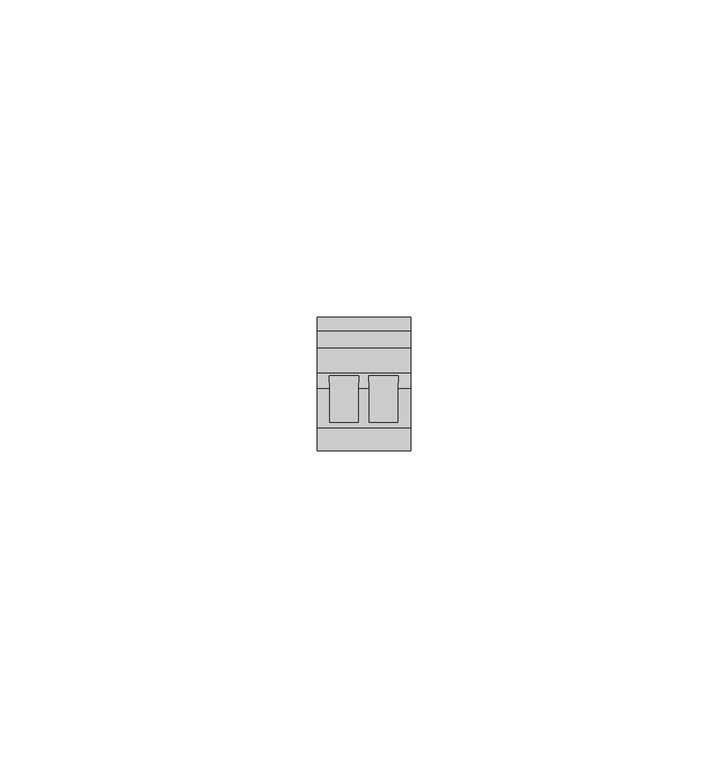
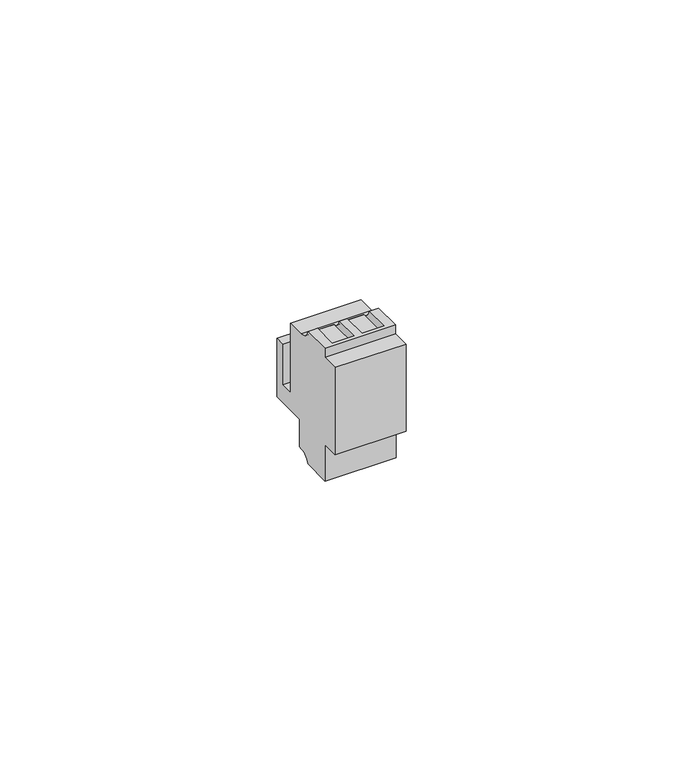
"""IFC4 building model written with IfcOpenShell, lengths in millimetres: electric appliance geometry, Data_Device-Network-Leviton-QuickPort-LC_Adapter : QuickPort, LC Shuttered Adapter - Green."""

from ifc_helpers import new_model, si_unit, frame, origin, place, context, project, spatial, polyline, circle_curve, outline, extrude, source, transform, mapped, element, save
from ifc_brep_helpers import plane_surface, revolved_surface, advanced_brep


def electric_appliance_7dd04773(model_context):
    return source(origin(), model_context, "Body", "SolidModel", [
        extrude(outline(polyline([(-28.4742003, 1.7803394), (-28.4742003, 9.1884779), (-23.8259996, 9.1884779), (-23.8259996, 1.7803394), (-28.4742003, 1.7803394)])), frame((0.0, 0.0, -0.762), z_axis=(0.0, 0.0, 1.0), x_axis=(1.0, 0.0, 0.0)), (0.0, 0.0, 1.0), 0.9134807),
        extrude(outline(polyline([(-17.5759997, 1.7803394), (-22.2242004, 1.7803394), (-22.2242004, 9.1884779), (-17.5759997, 9.1884779), (-17.5759997, 1.7803394)])), frame((0.0, 0.0, -0.762), z_axis=(0.0, 0.0, 1.0), x_axis=(1.0, 0.0, 0.0)), (0.0, 0.0, 1.0), 0.9134807),
        advanced_brep(
        [(-15.6591, 0.9630668, -19.0731444), (-15.6591, 0.9630668, -27.06), (-15.6591, 7.2670047, -27.06), (-15.6591, 9.4478073, -25.15), (-15.6591, 10.3183578, -25.15), (-15.6591, 10.3183578, -19.0731444), (-15.6591, 18.4531286, -19.0731444), (-15.6591, 18.4531286, -6.2289856), (-15.6591, 16.3498226, -6.2289856), (-15.6591, 16.3498226, -15.1890017), (-15.6591, 13.5187825, -15.1890017), (-15.6591, 13.5187825, 0.1514807), (-15.6591, 9.6964779, 0.1514807), (-15.6591, 7.1619817, 2.15), (-15.6591, 1.057779, 2.15), (-15.6591, 1.057779, 0.1514807), (-15.6591, -2.6102175, 0.1514807), (-15.6591, -2.6102175, -19.0731444), (-30.3911, 0.9630668, -19.0731444), (-30.3911, -2.6102175, -19.0731444), (-30.3911, -2.6102175, 0.1514807), (-30.3911, 1.057779, 0.1514807), (-30.3911, 1.057779, 2.15), (-30.3911, 7.1619817, 2.15), (-30.3911, 9.6964779, 0.1514807), (-30.3911, 13.5187825, 0.1514807), (-30.3911, 13.5187825, -15.1890017), (-30.3911, 16.3498226, -15.1890017), (-30.3911, 16.3498226, -6.2289856), (-30.3911, 18.4531286, -6.2289856), (-30.3911, 18.4531286, -19.0731444), (-30.3911, 10.3183578, -19.0731444), (-30.3911, 10.3183578, -25.15), (-30.3911, 9.4478073, -25.15), (-30.3911, 7.2670047, -27.06), (-30.3911, 0.9630668, -27.06), (-17.5759997, 7.1619817, 2.15), (-17.5759997, 1.7803394, 2.15), (-22.2242004, 1.7803394, 2.15), (-22.2242004, 7.1619817, 2.15), (-23.8259996, 7.1619817, 2.15), (-23.8259996, 1.7803394, 2.15), (-28.4742003, 1.7803394, 2.15), (-28.4742003, 7.1619817, 2.15), (-28.4742003, 9.1884779, 0.2014664), (-23.8259996, 9.1884779, 0.2014664), (-22.2242004, 9.1884779, 0.2014664), (-17.5759997, 9.1884779, 0.2014664), (-23.8259996, 1.7803394, -0.762), (-23.8259996, 9.1884779, -0.762), (-28.4742003, 9.1884779, -0.762), (-28.4742003, 1.7803394, -0.762), (-17.5759997, 1.7803394, -0.762), (-17.5759997, 9.1884779, -0.762), (-22.2242004, 9.1884779, -0.762), (-22.2242004, 1.7803394, -0.762)],
        [
            (0, 1),
            (1, 2),
            (2, 3, circle_curve(frame((-15.6591, 9.4478073, -27.35), z_axis=(-1.0, 0.0, 0.0), x_axis=(0.0, 1.0, 0.0)), 2.2)),
            (3, 4),
            (4, 5),
            (5, 6),
            (6, 7),
            (7, 8),
            (8, 9),
            (9, 10),
            (10, 11),
            (11, 12),
            (12, 13, circle_curve(frame((-15.6591, 9.6964779, 2.7578478), z_axis=(-1.0, 0.0, 0.0), x_axis=(0.0, 1.0, 0.0)), 2.6063671)),
            (13, 14),
            (14, 15),
            (15, 16),
            (16, 17),
            (17, 0),
            (18, 19),
            (19, 20),
            (20, 21),
            (21, 22),
            (22, 23),
            (23, 24, circle_curve(frame((-30.3911, 9.6964779, 2.7578478), z_axis=(1.0, 0.0, 0.0), x_axis=(0.0, 1.0, 0.0)), 2.6063671)),
            (24, 25),
            (25, 26),
            (26, 27),
            (27, 28),
            (28, 29),
            (29, 30),
            (30, 31),
            (31, 32),
            (32, 33),
            (33, 34, circle_curve(frame((-30.3911, 9.4478073, -27.35), z_axis=(1.0, 0.0, 0.0), x_axis=(0.0, 1.0, 0.0)), 2.2)),
            (34, 35),
            (35, 18),
            (10, 26),
            (25, 11),
            (24, 12),
            (13, 36),
            (36, 37),
            (37, 38),
            (38, 39),
            (39, 40),
            (40, 41),
            (41, 42),
            (42, 43),
            (43, 23),
            (22, 14),
            (21, 15),
            (20, 16),
            (19, 17),
            (18, 0),
            (6, 30),
            (29, 7),
            (28, 8),
            (27, 9),
            (35, 1),
            (34, 2),
            (4, 32),
            (31, 5),
            (33, 3),
            (43, 44, circle_curve(frame((-28.4742003, 9.6964779, 2.7578478), z_axis=(1.0, 0.0, 0.0), x_axis=(0.0, 1.0, 0.0)), 2.6063671)),
            (44, 45),
            (45, 40, circle_curve(frame((-23.8259996, 9.6964779, 2.7578478), z_axis=(-1.0, 0.0, 0.0), x_axis=(0.0, 1.0, 0.0)), 2.6063671)),
            (39, 46, circle_curve(frame((-22.2242004, 9.6964779, 2.7578478), z_axis=(1.0, 0.0, 0.0), x_axis=(0.0, 1.0, 0.0)), 2.6063671)),
            (46, 47),
            (47, 36, circle_curve(frame((-17.5759997, 9.6964779, 2.7578478), z_axis=(-1.0, 0.0, 0.0), x_axis=(0.0, 1.0, 0.0)), 2.6063671)),
            (48, 49),
            (49, 50),
            (50, 51),
            (51, 48),
            (52, 53),
            (53, 54),
            (54, 55),
            (55, 52),
            (48, 41),
            (45, 49),
            (44, 50),
            (42, 51),
            (52, 37),
            (47, 53),
            (46, 54),
            (38, 55),
        ],
        [
            plane_surface(frame((-15.6591, 0.9630668, -19.0731444), z_axis=(1.0, 0.0, 0.0), x_axis=(0.0, 0.0, -1.0))),
            plane_surface(frame((-30.3911, 0.9630668, -19.0731444), z_axis=(-1.0, 0.0, 0.0), x_axis=(0.0, 0.0, 1.0))),
            plane_surface(frame((-15.6591, 13.5187825, -15.1890017), z_axis=(0.0, 1.0, 0.0), x_axis=(-1.0, 0.0, 0.0))),
            plane_surface(frame((-15.6591, 13.5187825, 0.1514807), z_axis=(0.0, 0.0, 1.0), x_axis=(-1.0, 0.0, 0.0))),
            plane_surface(frame((-15.6591, 7.1619817, 2.15), z_axis=(0.0, 0.0, 1.0), x_axis=(-1.0, 0.0, 0.0))),
            plane_surface(frame((-15.6591, 1.057779, 2.15), z_axis=(0.0, -1.0, 0.0), x_axis=(-1.0, 0.0, 0.0))),
            plane_surface(frame((-15.6591, 1.057779, 0.1514807), z_axis=(0.0, 0.0, 1.0), x_axis=(-1.0, 0.0, 0.0))),
            plane_surface(frame((-15.6591, -2.6102175, 0.1514807), z_axis=(0.0, -1.0, 0.0), x_axis=(-1.0, 0.0, 0.0))),
            plane_surface(frame((-15.6591, -2.6102175, -19.0731444), z_axis=(0.0, 0.0, -1.0), x_axis=(-1.0, 0.0, 0.0))),
            plane_surface(frame((-15.6591, 18.4531286, -19.0731444), z_axis=(0.0, 1.0, 0.0), x_axis=(-1.0, 0.0, 0.0))),
            plane_surface(frame((-15.6591, 18.4531286, -6.2289856), z_axis=(0.0, 0.0, 1.0), x_axis=(-1.0, 0.0, 0.0))),
            plane_surface(frame((-15.6591, 16.3498226, -6.2289856), z_axis=(0.0, -1.0, 0.0), x_axis=(-1.0, 0.0, 0.0))),
            plane_surface(frame((-15.6591, 16.3498226, -15.1890017), z_axis=(0.0, 0.0, 1.0), x_axis=(-1.0, 0.0, 0.0))),
            plane_surface(frame((-15.6591, 0.9630668, -19.0731444), z_axis=(0.0, -1.0, 0.0), x_axis=(-1.0, 0.0, 0.0))),
            plane_surface(frame((-15.6591, 0.9630668, -27.06), z_axis=(0.0, 0.0, -1.0), x_axis=(-1.0, 0.0, 0.0))),
            plane_surface(frame((-15.6591, 10.3183578, -25.15), z_axis=(0.0, 1.0, 0.0), x_axis=(-1.0, 0.0, 0.0))),
            plane_surface(frame((-15.6591, 10.3183578, -19.0731444), z_axis=(0.0, 0.0, -1.0), x_axis=(-1.0, 0.0, 0.0))),
            revolved_surface(polyline([(-30.3911, 11.6478073, -27.35), (-15.6591, 11.6478073, -27.35)]), (-30.3911, 9.4478073, -27.35), (-1.0, 0.0, 0.0)),
            plane_surface(frame((-15.6591, 9.4478073, -25.15), z_axis=(0.0, -4.230034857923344e-09, -1.0), x_axis=(-1.0, 0.0, 0.0))),
            revolved_surface(polyline([(-30.3911, 12.302845, 2.7578478), (-15.6591, 12.302845, 2.7578478)]), (-30.3911, 9.6964779, 2.7578478), (-1.0, 0.0, 0.0)),
            plane_surface(frame((-23.8259996, 1.7803394, -0.762), z_axis=(0.0, 0.0, 1.0), x_axis=(0.0, -1.0, 0.0))),
            plane_surface(frame((-23.8259996, 1.7803394, 2.15), z_axis=(-1.0, 0.0, 0.0), x_axis=(0.0, 0.0, -1.0))),
            plane_surface(frame((-23.8259996, 9.1884779, 2.15), z_axis=(0.0, -1.0, 0.0), x_axis=(0.0, 0.0, -1.0))),
            plane_surface(frame((-28.4742003, 9.1884779, 2.15), z_axis=(1.0, 0.0, 0.0), x_axis=(0.0, 0.0, -1.0))),
            plane_surface(frame((-28.4742003, 1.7803394, 2.15), z_axis=(0.0, 1.0, 0.0), x_axis=(0.0, 0.0, -1.0))),
            plane_surface(frame((-17.5759997, 1.7803394, 2.15), z_axis=(-1.0, 0.0, 0.0), x_axis=(0.0, 0.0, -1.0))),
            plane_surface(frame((-17.5759997, 9.1884779, 2.15), z_axis=(0.0, -1.0, 0.0), x_axis=(0.0, 0.0, -1.0))),
            plane_surface(frame((-22.2242004, 9.1884779, 2.15), z_axis=(1.0, 0.0, 0.0), x_axis=(0.0, 0.0, -1.0))),
            plane_surface(frame((-22.2242004, 1.7803394, 2.15), z_axis=(0.0, 1.0, 0.0), x_axis=(0.0, 0.0, -1.0))),
        ],
        [
            (0, [[1, 2, 3, 4, 5, 6, 7, 8, 9, 10, 11, 12, 13, 14, 15, 16, 17, 18]]),
            (1, [[19, 20, 21, 22, 23, 24, 25, 26, 27, 28, 29, 30, 31, 32, 33, 34, 35, 36]]),
            (2, [[-11, 37, -26, 38]]),
            (3, [[-12, -38, -25, 39]]),
            (4, [[-14, 40, 41, 42, 43, 44, 45, 46, 47, 48, -23, 49]]),
            (5, [[-15, -49, -22, 50]]),
            (6, [[-16, -50, -21, 51]]),
            (7, [[-17, -51, -20, 52]]),
            (8, [[-18, -52, -19, 53]]),
            (9, [[-7, 54, -30, 55]]),
            (10, [[-8, -55, -29, 56]]),
            (11, [[-9, -56, -28, 57]]),
            (12, [[-10, -57, -27, -37]]),
            (13, [[-1, -53, -36, 58]]),
            (14, [[-2, -58, -35, 59]]),
            (15, [[-5, 60, -32, 61]]),
            (16, [[-6, -61, -31, -54]]),
            (17, [[-3, -59, -34, 62]]),
            (18, [[-4, -62, -33, -60]]),
            (19, [[-13, -39, -24, -48, 63, 64, 65, -44, 66, 67, 68, -40]]),
            (20, [[69, 70, 71, 72]]),
            (20, [[73, 74, 75, 76]]),
            (21, [[-69, 77, -45, -65, 78]]),
            (22, [[-70, -78, -64, 79]]),
            (23, [[-71, -79, -63, -47, 80]]),
            (24, [[-72, -80, -46, -77]]),
            (25, [[-73, 81, -41, -68, 82]]),
            (26, [[-74, -82, -67, 83]]),
            (27, [[-75, -83, -66, -43, 84]]),
            (28, [[-76, -84, -42, -81]]),
        ],
    ),
    ])


if __name__ == "__main__":
    model = new_model("IFC4")
    model_context = context("Model", 3, world=origin())
    ifc_project = project(units=[si_unit("LENGTHUNIT", "METRE", prefix="MILLI")], contexts=[model_context])
    site = spatial("IfcSite", under=ifc_project)
    building = spatial("IfcBuilding", under=site)
    placement = place(None, origin())
    electric_appliance_shape = electric_appliance_7dd04773(model_context)
    element("IfcElectricAppliance", 1, ObjectType="Data_Device-Network-Leviton-QuickPort-LC_Adapter : QuickPort, LC Shuttered Adapter - Green", at=placement, inside=building, context=model_context, shape_type="MappedRepresentation", body=[
        mapped(electric_appliance_shape, transform((0.0, 0.0, 0.0), x_axis=(1.0, 0.0, 0.0), y_axis=(0.0, 1.0, 0.0), z_axis=(0.0, 0.0, 1.0))),
    ])
    save(model, "model.ifc")
